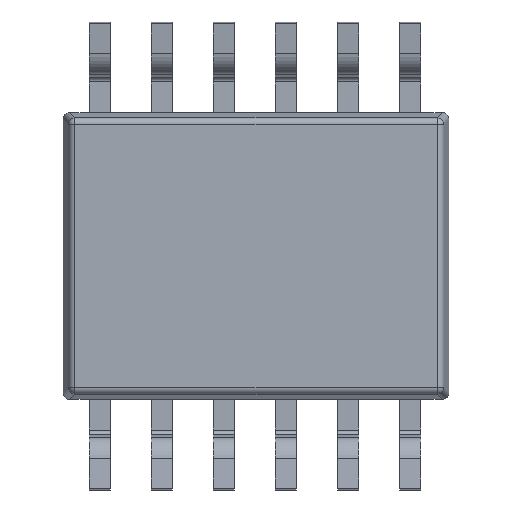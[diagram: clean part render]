
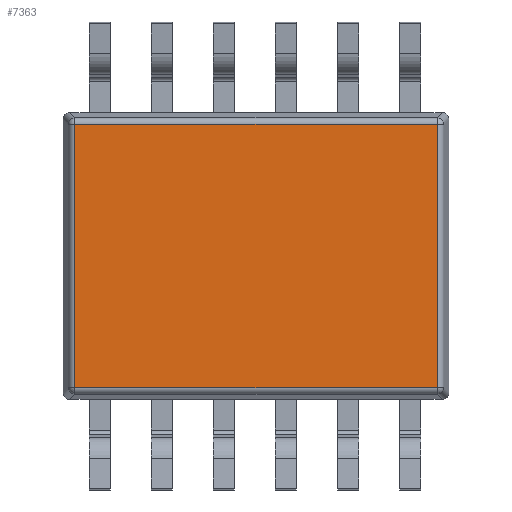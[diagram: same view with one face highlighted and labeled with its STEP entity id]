
A CAD part, front view. The second image highlights one B-rep face of the part: STEP entity #7363.
In plain terms, the highlighted planar face has unit normal (0, -1, 0).
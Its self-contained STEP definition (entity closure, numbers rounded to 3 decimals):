
#32 = CARTESIAN_POINT ( 'NONE',  ( -1.955, -0.43, 1.377 ) ) ;
#293 = VERTEX_POINT ( 'NONE', #826 ) ;
#417 = CARTESIAN_POINT ( 'NONE',  ( 1.897, -0.43, -1.377 ) ) ;
#564 = FACE_OUTER_BOUND ( 'NONE', #4447, .T. ) ;
#664 = VECTOR ( 'NONE', #4118, 1000. ) ;
#826 = CARTESIAN_POINT ( 'NONE',  ( -1.897, -0.43, -1.377 ) ) ;
#879 = ORIENTED_EDGE ( 'NONE', *, *, #2356, .T. ) ;
#992 = LINE ( 'NONE', #32, #664 ) ;
#1005 = CARTESIAN_POINT ( 'NONE',  ( -1.897, -0.43, 1.377 ) ) ;
#1349 = DIRECTION ( 'NONE',  ( 0., 0., 1. ) ) ;
#1490 = VERTEX_POINT ( 'NONE', #417 ) ;
#1589 = LINE ( 'NONE', #8334, #7434 ) ;
#1774 = VECTOR ( 'NONE', #1349, 1000. ) ;
#2356 = EDGE_CURVE ( 'NONE', #293, #1490, #1589, .T. ) ;
#2691 = ORIENTED_EDGE ( 'NONE', *, *, #5441, .T. ) ;
#3143 = DIRECTION ( 'NONE',  ( 0., 0., -1. ) ) ;
#3990 = CARTESIAN_POINT ( 'NONE',  ( 1.897, -0.43, 1.435 ) ) ;
#4118 = DIRECTION ( 'NONE',  ( -1., 0., 0. ) ) ;
#4176 = VERTEX_POINT ( 'NONE', #7742 ) ;
#4447 = EDGE_LOOP ( 'NONE', ( #7974, #6873, #2691, #879 ) ) ;
#4903 = DIRECTION ( 'NONE',  ( 0., 0., -1. ) ) ;
#4990 = DIRECTION ( 'NONE',  ( 0., -1., 0. ) ) ;
#5118 = AXIS2_PLACEMENT_3D ( 'NONE', #7775, #4990, #4903 ) ;
#5441 = EDGE_CURVE ( 'NONE', #7514, #293, #8827, .T. ) ;
#5636 = VECTOR ( 'NONE', #3143, 1000. ) ;
#6548 = LINE ( 'NONE', #3990, #1774 ) ;
#6565 = CARTESIAN_POINT ( 'NONE',  ( -1.897, -0.43, -1.435 ) ) ;
#6873 = ORIENTED_EDGE ( 'NONE', *, *, #7705, .T. ) ;
#7166 = EDGE_CURVE ( 'NONE', #1490, #4176, #6548, .T. ) ;
#7363 = ADVANCED_FACE ( 'NONE', ( #564 ), #8428, .T. ) ;
#7434 = VECTOR ( 'NONE', #8441, 1000. ) ;
#7514 = VERTEX_POINT ( 'NONE', #1005 ) ;
#7705 = EDGE_CURVE ( 'NONE', #4176, #7514, #992, .T. ) ;
#7742 = CARTESIAN_POINT ( 'NONE',  ( 1.897, -0.43, 1.377 ) ) ;
#7775 = CARTESIAN_POINT ( 'NONE',  ( 0., -0.43, 0. ) ) ;
#7974 = ORIENTED_EDGE ( 'NONE', *, *, #7166, .T. ) ;
#8334 = CARTESIAN_POINT ( 'NONE',  ( 1.954, -0.43, -1.377 ) ) ;
#8428 = PLANE ( 'NONE',  #5118 ) ;
#8441 = DIRECTION ( 'NONE',  ( 1., 0., 0. ) ) ;
#8827 = LINE ( 'NONE', #6565, #5636 ) ;
